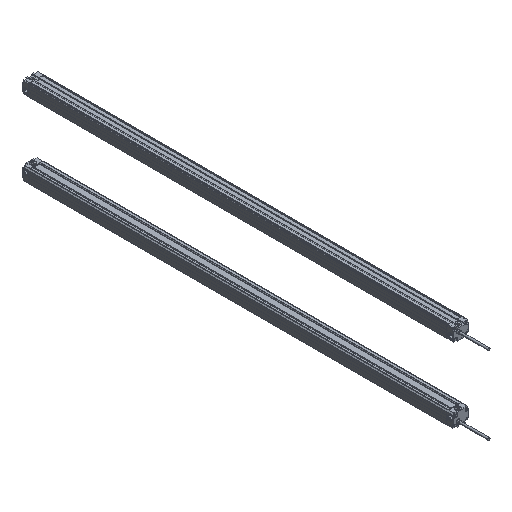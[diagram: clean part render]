
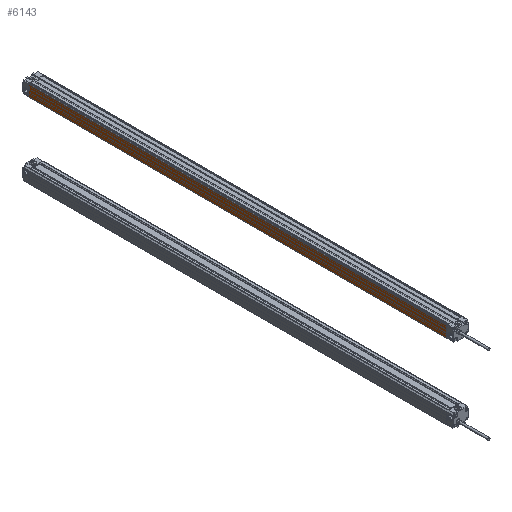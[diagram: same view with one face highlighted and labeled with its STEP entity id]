
A CAD part, isometric view. The second image highlights one B-rep face of the part: STEP entity #6143.
In plain terms, the highlighted planar face has unit normal (-1, 0, 0) as drawn and (1, 0, 0) by its records, which use the part's own axes.
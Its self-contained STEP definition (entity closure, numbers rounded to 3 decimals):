
#926 = CARTESIAN_POINT ( 'NONE',  ( 12.5, -680., 8.293 ) ) ;
#1131 = CARTESIAN_POINT ( 'NONE',  ( 12.5, -680., -9.2 ) ) ;
#1804 = CARTESIAN_POINT ( 'NONE',  ( 12.5, 0., 8.293 ) ) ;
#1944 = LINE ( 'NONE', #1804, #10620 ) ;
#2211 = EDGE_CURVE ( 'NONE', #4151, #6581, #5797, .T. ) ;
#2491 = EDGE_CURVE ( 'NONE', #5336, #9341, #2899, .T. ) ;
#2639 = DIRECTION ( 'NONE',  ( 0., 1., 0. ) ) ;
#2816 = DIRECTION ( 'NONE',  ( 0., 0., -1. ) ) ;
#2899 = LINE ( 'NONE', #926, #8545 ) ;
#2956 = FACE_OUTER_BOUND ( 'NONE', #9325, .T. ) ;
#3470 = DIRECTION ( 'NONE',  ( 0., 1., 0. ) ) ;
#3517 = DIRECTION ( 'NONE',  ( 0., 0., -1. ) ) ;
#3537 = DIRECTION ( 'NONE',  ( 0., 0., -1. ) ) ;
#4151 = VERTEX_POINT ( 'NONE', #1131 ) ;
#4270 = CARTESIAN_POINT ( 'NONE',  ( 12.5, -680., -9.2 ) ) ;
#4491 = CARTESIAN_POINT ( 'NONE',  ( 12.5, -680., 8.293 ) ) ;
#4982 = LINE ( 'NONE', #8515, #10236 ) ;
#5039 = ORIENTED_EDGE ( 'NONE', *, *, #2491, .F. ) ;
#5131 = VECTOR ( 'NONE', #2639, 1000. ) ;
#5336 = VERTEX_POINT ( 'NONE', #4491 ) ;
#5409 = ORIENTED_EDGE ( 'NONE', *, *, #2211, .T. ) ;
#5797 = LINE ( 'NONE', #4270, #5131 ) ;
#6143 = ADVANCED_FACE ( 'NONE', ( #2956 ), #9468, .T. ) ;
#6581 = VERTEX_POINT ( 'NONE', #7837 ) ;
#7837 = CARTESIAN_POINT ( 'NONE',  ( 12.5, 0., -9.2 ) ) ;
#7859 = CARTESIAN_POINT ( 'NONE',  ( 12.5, -680., 8.293 ) ) ;
#8515 = CARTESIAN_POINT ( 'NONE',  ( 12.5, -680., 8.293 ) ) ;
#8545 = VECTOR ( 'NONE', #3470, 1000. ) ;
#8548 = EDGE_CURVE ( 'NONE', #5336, #4151, #4982, .T. ) ;
#8844 = ORIENTED_EDGE ( 'NONE', *, *, #10407, .F. ) ;
#9325 = EDGE_LOOP ( 'NONE', ( #8844, #5039, #10699, #5409 ) ) ;
#9341 = VERTEX_POINT ( 'NONE', #10752 ) ;
#9468 = PLANE ( 'NONE',  #9818 ) ;
#9818 = AXIS2_PLACEMENT_3D ( 'NONE', #7859, #10303, #2816 ) ;
#10236 = VECTOR ( 'NONE', #3517, 1000. ) ;
#10303 = DIRECTION ( 'NONE',  ( 1., 0., 0. ) ) ;
#10407 = EDGE_CURVE ( 'NONE', #9341, #6581, #1944, .T. ) ;
#10620 = VECTOR ( 'NONE', #3537, 1000. ) ;
#10699 = ORIENTED_EDGE ( 'NONE', *, *, #8548, .T. ) ;
#10752 = CARTESIAN_POINT ( 'NONE',  ( 12.5, 0., 8.293 ) ) ;
